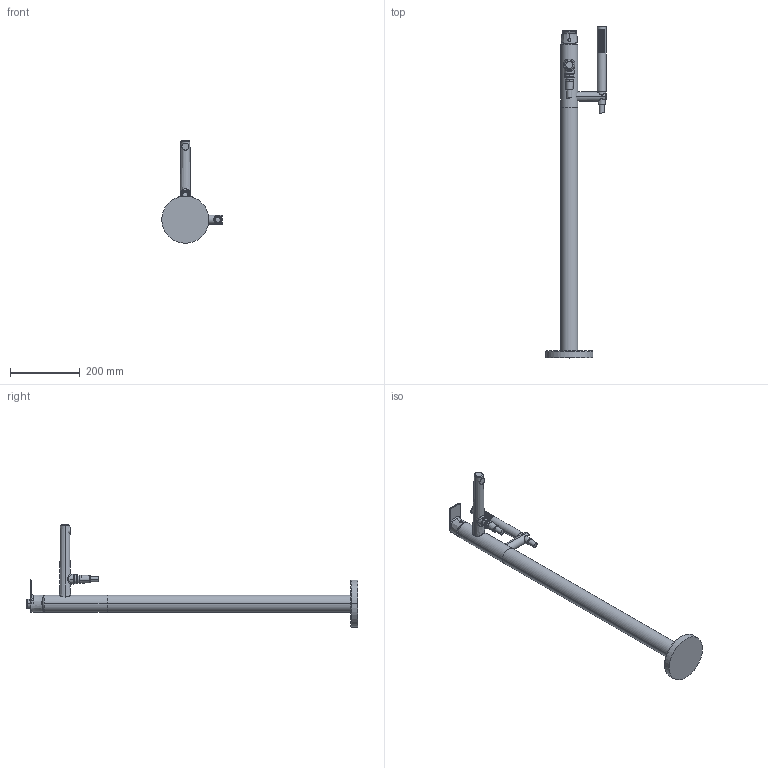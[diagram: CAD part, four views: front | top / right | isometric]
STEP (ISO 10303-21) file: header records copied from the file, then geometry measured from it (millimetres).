
FILE_DESCRIPTION (( 'STEP AP203' ), '1' );
FILE_NAME ('57252073(2021).STEP', '2020-09-29T04:32:07', ( '' ), ( '' ), 'SwSTEP 2.0', 'SolidWorks 2016', '' );
FILE_SCHEMA (( 'CONFIG_CONTROL_DESIGN' ));
Length unit declared in the file: millimetre
Products named in the file (1): 57252073(2021)
Bounding box: 173 x 949.5 x 293.1 mm (x, y, z)
Volume: 2338836.2 mm3; surface area: 257949.2 mm2
Topology: 15 solids, 15 shells, 248 faces, 529 edges, 372 vertices
Faces by surface type: bspline 134, plane 46, cylinder 45, torus 14, cone 8, sphere 1
Entity records: 28284 total; most frequent: CARTESIAN_POINT 23608, ORIENTED_EDGE 1050, DIRECTION 642, EDGE_CURVE 525, VERTEX_POINT 371, EDGE_LOOP 312, AXIS2_PLACEMENT_3D 267, B_SPLINE_CURVE_WITH_KNOTS 254
